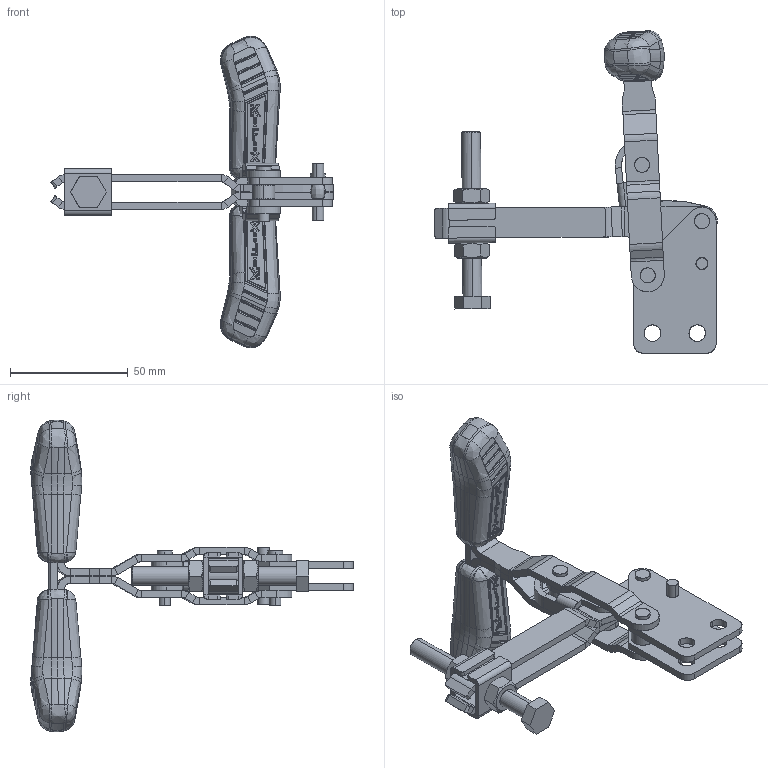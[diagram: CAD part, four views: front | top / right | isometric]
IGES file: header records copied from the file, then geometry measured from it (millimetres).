
Start section: SolidWorks IGES file using analytic representation for surfaces
Global section: file name: C:\Projetos\Grampos\KF-017 T\KF-017 RTL\KF-017 RTL.IGS; native system: SolidWorks 2018; preprocessor: SolidWorks 2018; author: Ricardo; date: 180604.153513; units: millimetre
Bounding box: 119.94 x 136.72 x 132.26 mm (x, y, z)
Surface area: 52754.7 mm2 (no closed solid volume)
Topology: 0 solids, 0 shells, 1725 faces, 15427 edges, 15309 vertices
Faces by surface type: bspline 1059, revolution 666
